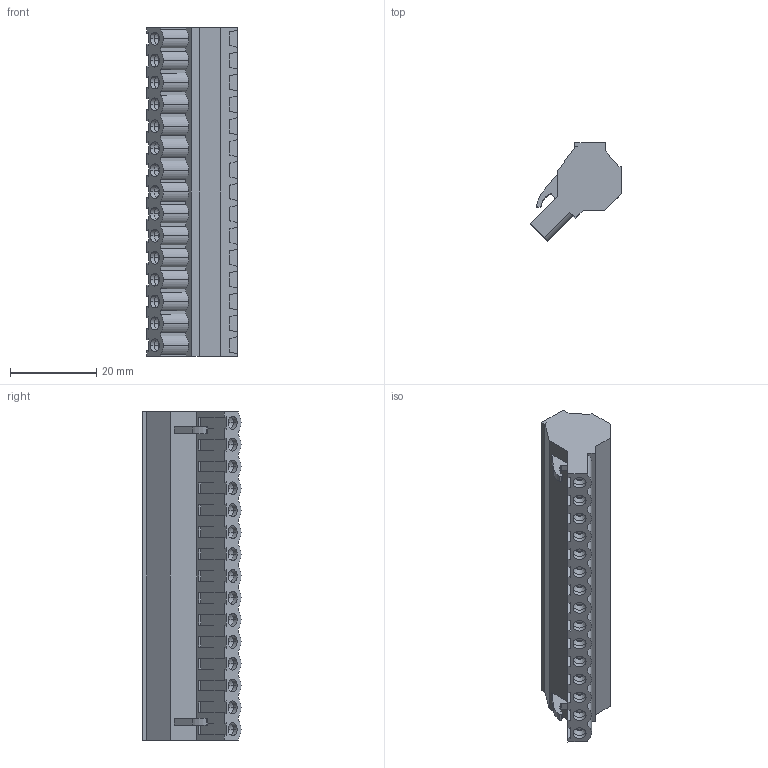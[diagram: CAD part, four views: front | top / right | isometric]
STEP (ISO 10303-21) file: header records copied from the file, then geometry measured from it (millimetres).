
FILE_DESCRIPTION (( 'STEP AP214' ), '1' );
FILE_NAME ('121-C-111-15.STEP', '2009-04-25T04:21:20', ( ' ' ), ( '' ), 'SwSTEP 2.0', 'SolidWorks 2007', '' );
FILE_SCHEMA (( 'AUTOMOTIVE_DESIGN' ));
Length unit declared in the file: millimetre
Products named in the file (1): 121-C-111-15
Bounding box: 21.08 x 22.75 x 76.2 mm (x, y, z)
Volume: 16323.6 mm3; surface area: 9884.1 mm2
Topology: 1 solids, 1 shells, 1633 faces, 4428 edges, 2887 vertices
Faces by surface type: plane 1261, cylinder 312, cone 60
Entity records: 50819 total; most frequent: CARTESIAN_POINT 9039, ORIENTED_EDGE 8856, DIRECTION 8410, EDGE_CURVE 4428, VECTOR 3654, LINE 3654, VERTEX_POINT 2887, AXIS2_PLACEMENT_3D 2378
